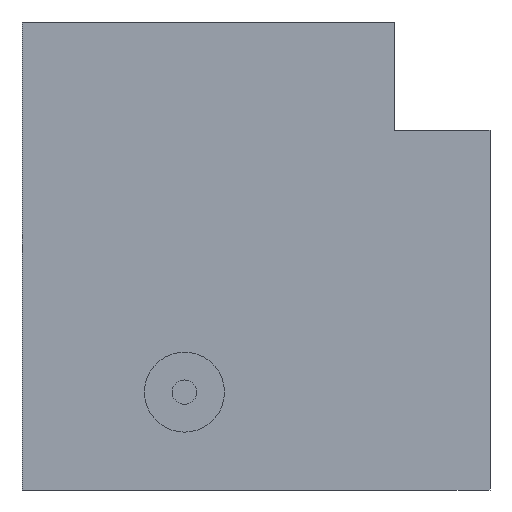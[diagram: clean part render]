
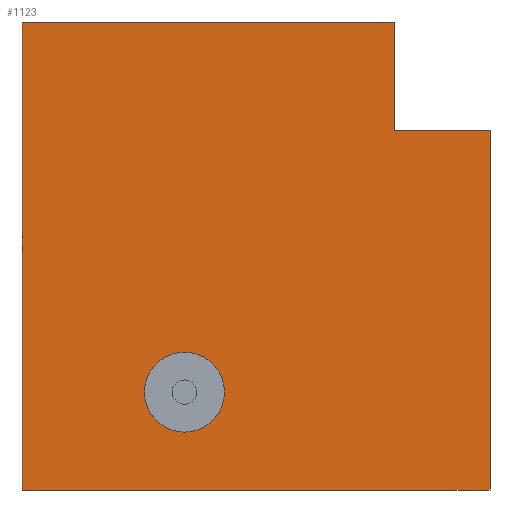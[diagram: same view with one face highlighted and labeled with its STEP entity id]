
A CAD part, front view. The second image highlights one B-rep face of the part: STEP entity #1123.
In plain terms, the highlighted planar face has unit normal (0, -1, 0).
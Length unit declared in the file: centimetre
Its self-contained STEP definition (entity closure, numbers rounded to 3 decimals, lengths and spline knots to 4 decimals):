
#29 = VERTEX_POINT ( 'NONE', #863 ) ;
#43 = CARTESIAN_POINT ( 'NONE',  ( 0., 0., 1000. ) ) ;
#126 = ORIENTED_EDGE ( 'NONE', *, *, #703, .F. ) ;
#134 = VECTOR ( 'NONE', #899, 100. ) ;
#143 = CARTESIAN_POINT ( 'NONE',  ( 1000., 0., 1000. ) ) ;
#157 = VERTEX_POINT ( 'NONE', #439 ) ;
#159 = DIRECTION ( 'NONE',  ( 1., 0., 0. ) ) ;
#187 = ORIENTED_EDGE ( 'NONE', *, *, #683, .T. ) ;
#194 = VERTEX_POINT ( 'NONE', #800 ) ;
#200 = ORIENTED_EDGE ( 'NONE', *, *, #247, .F. ) ;
#226 = CARTESIAN_POINT ( 'NONE',  ( 347.1384, 0., 123.6235 ) ) ;
#247 = EDGE_CURVE ( 'NONE', #1083, #381, #856, .T. ) ;
#268 = AXIS2_PLACEMENT_3D ( 'NONE', #43, #756, #954 ) ;
#271 = DIRECTION ( 'NONE',  ( 0., 0., -1. ) ) ;
#298 = AXIS2_PLACEMENT_3D ( 'NONE', #970, #718, #271 ) ;
#308 = DIRECTION ( 'NONE',  ( 0., 0., -1. ) ) ;
#315 = VECTOR ( 'NONE', #159, 100. ) ;
#354 = EDGE_CURVE ( 'NONE', #939, #194, #1089, .T. ) ;
#361 = DIRECTION ( 'NONE',  ( 0., -1., 0. ) ) ;
#365 = CARTESIAN_POINT ( 'NONE',  ( 795.6363, 0., 768.5427 ) ) ;
#381 = VERTEX_POINT ( 'NONE', #464 ) ;
#403 = ORIENTED_EDGE ( 'NONE', *, *, #631, .F. ) ;
#433 = LINE ( 'NONE', #1164, #315 ) ;
#439 = CARTESIAN_POINT ( 'NONE',  ( 795.6363, 0., 1000. ) ) ;
#464 = CARTESIAN_POINT ( 'NONE',  ( 347.1384, 0., 294.5963 ) ) ;
#466 = VECTOR ( 'NONE', #308, 100. ) ;
#515 = EDGE_CURVE ( 'NONE', #1003, #1007, #770, .T. ) ;
#535 = CARTESIAN_POINT ( 'NONE',  ( 347.1384, 0., 209.1099 ) ) ;
#577 = FACE_OUTER_BOUND ( 'NONE', #936, .T. ) ;
#579 = EDGE_CURVE ( 'NONE', #194, #29, #764, .T. ) ;
#591 = CARTESIAN_POINT ( 'NONE',  ( 0., 0., 1000. ) ) ;
#612 = CARTESIAN_POINT ( 'NONE',  ( 795.6363, 0., 768.5427 ) ) ;
#615 = ORIENTED_EDGE ( 'NONE', *, *, #515, .T. ) ;
#631 = EDGE_CURVE ( 'NONE', #1003, #157, #433, .T. ) ;
#651 = CARTESIAN_POINT ( 'NONE',  ( 795.6363, 0., 768.5427 ) ) ;
#683 = EDGE_CURVE ( 'NONE', #1007, #29, #965, .T. ) ;
#684 = EDGE_LOOP ( 'NONE', ( #200, #918 ) ) ;
#703 = EDGE_CURVE ( 'NONE', #157, #939, #809, .T. ) ;
#713 = CARTESIAN_POINT ( 'NONE',  ( 0., 0., 0. ) ) ;
#718 = DIRECTION ( 'NONE',  ( 0., -1., 0. ) ) ;
#753 = DIRECTION ( 'NONE',  ( 1., 0., 0. ) ) ;
#756 = DIRECTION ( 'NONE',  ( 0., 1., 0. ) ) ;
#759 = AXIS2_PLACEMENT_3D ( 'NONE', #535, #361, #900 ) ;
#764 = LINE ( 'NONE', #143, #940 ) ;
#769 = FACE_BOUND ( 'NONE', #684, .T. ) ;
#770 = LINE ( 'NONE', #1125, #466 ) ;
#800 = CARTESIAN_POINT ( 'NONE',  ( 1000., 0., 768.5427 ) ) ;
#809 = LINE ( 'NONE', #612, #134 ) ;
#816 = EDGE_CURVE ( 'NONE', #381, #1083, #833, .T. ) ;
#833 = CIRCLE ( 'NONE', #298, 85.4864 ) ;
#856 = CIRCLE ( 'NONE', #759, 85.4864 ) ;
#863 = CARTESIAN_POINT ( 'NONE',  ( 1000., 0., 0. ) ) ;
#873 = VECTOR ( 'NONE', #1152, 100. ) ;
#899 = DIRECTION ( 'NONE',  ( 0., 0., -1. ) ) ;
#900 = DIRECTION ( 'NONE',  ( 0., 0., -1. ) ) ;
#918 = ORIENTED_EDGE ( 'NONE', *, *, #816, .F. ) ;
#936 = EDGE_LOOP ( 'NONE', ( #1098, #126, #403, #615, #187, #1157 ) ) ;
#939 = VERTEX_POINT ( 'NONE', #365 ) ;
#940 = VECTOR ( 'NONE', #1028, 100. ) ;
#952 = CARTESIAN_POINT ( 'NONE',  ( 0., 0., 0. ) ) ;
#954 = DIRECTION ( 'NONE',  ( 0., 0., 1. ) ) ;
#965 = LINE ( 'NONE', #713, #873 ) ;
#970 = CARTESIAN_POINT ( 'NONE',  ( 347.1384, 0., 209.1099 ) ) ;
#1003 = VERTEX_POINT ( 'NONE', #591 ) ;
#1007 = VERTEX_POINT ( 'NONE', #952 ) ;
#1023 = PLANE ( 'NONE',  #268 ) ;
#1028 = DIRECTION ( 'NONE',  ( 0., 0., -1. ) ) ;
#1083 = VERTEX_POINT ( 'NONE', #226 ) ;
#1089 = LINE ( 'NONE', #651, #1150 ) ;
#1098 = ORIENTED_EDGE ( 'NONE', *, *, #354, .F. ) ;
#1123 = ADVANCED_FACE ( 'NONE', ( #769, #577 ), #1023, .F. ) ;
#1125 = CARTESIAN_POINT ( 'NONE',  ( 0., 0., 1000. ) ) ;
#1150 = VECTOR ( 'NONE', #753, 100. ) ;
#1152 = DIRECTION ( 'NONE',  ( 1., 0., 0. ) ) ;
#1157 = ORIENTED_EDGE ( 'NONE', *, *, #579, .F. ) ;
#1164 = CARTESIAN_POINT ( 'NONE',  ( 0., 0., 1000. ) ) ;
